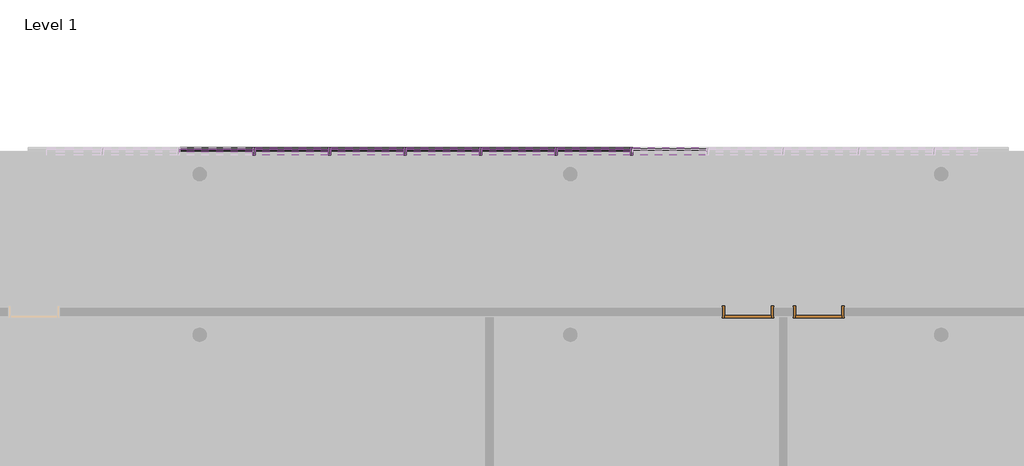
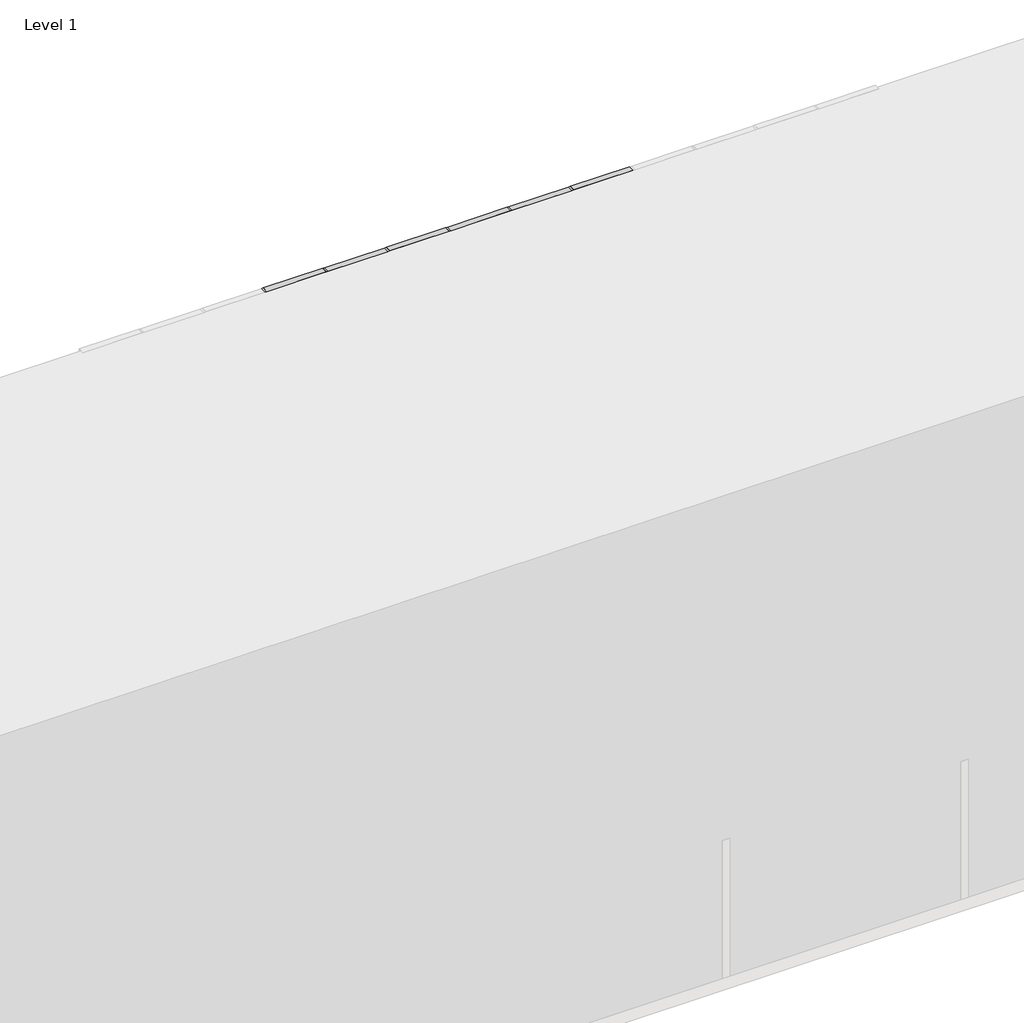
# One storey, part 7 of 27: 90 members, 42 plates, 2 doors.
"""IFC4 building model written with IfcOpenShell, lengths in millimetres."""

from ifc_helpers import new_model, si_unit, origin, place, context, project, spatial, transform, mapped, element, save
from components import door_0915mm_x_2134mm_2aa27b83, door_0915mm_x_2134mm_3fa07aa3, rectangular_mullion_50mm_x_150mm_5f185edf, rectangular_mullion_50mm_x_150mm_e13fe9f0, rectangular_mullion_50mm_x_150mm_bbc1c4ea, rectangular_mullion_50mm_x_150mm_36202a7c, rectangular_mullion_50mm_x_150mm_84717ec5, system_panel_glazed_65478968, system_panel_glazed_4c130a31, system_panel_solid_368a6b70, system_panel_solid_ece33ae8

model = new_model("IFC4")

# Units and contexts
model_context = context("Model", 3, world=origin())
ifc_project = project(units=[si_unit("LENGTHUNIT", "METRE", prefix="MILLI")], contexts=[model_context])

# Site, building, storey
site = spatial("IfcSite", under=ifc_project)
building = spatial("IfcBuilding", under=site)
storey = spatial("IfcBuildingStorey", under=building, Name="Level 1", Elevation=0.0)

# Doors
placement = place(None, origin())
door_0915mm_x_2134mm_shape = door_0915mm_x_2134mm_2aa27b83(model_context)
element("IfcDoor", 1, ObjectType="m-doors-hm-f1-a : 0915mm x 2134mm", at=placement, inside=storey, context=model_context, shape_type="MappedRepresentation", body=[
    mapped(door_0915mm_x_2134mm_shape, transform((45561.1968037, -15479.7006057, 0.0), x_axis=(-1.0, 0.0, 0.0), y_axis=(0.0, -1.0, 0.0), z_axis=(0.0, 0.0, 1.0))),
])
door_0915mm_x_2134mm_2_shape = door_0915mm_x_2134mm_3fa07aa3(model_context)
element("IfcDoor", 2, ObjectType="m-doors-hm-f1-a : 0915mm x 2134mm", at=placement, inside=storey, context=model_context, shape_type="MappedRepresentation", body=[
    mapped(door_0915mm_x_2134mm_2_shape, transform((46961.1968037, -15479.7006057, 0.0), x_axis=(1.0, 0.0, 0.0), y_axis=(0.0, 1.0, 0.0), z_axis=(0.0, 0.0, 1.0))),
])

# Members
rectangular_mullion_50mm_x_150mm_shape = rectangular_mullion_50mm_x_150mm_5f185edf(model_context)
element("IfcMember", 3, ObjectType="Rectangular Mullion : 50mm x 150mm", at=placement, inside=storey, context=model_context, shape_type="MappedRepresentation", body=[
    mapped(rectangular_mullion_50mm_x_150mm_shape, transform((43291.8583565, -12132.3615692, 12400.0), x_axis=(0.0, 0.0, 1.0), y_axis=(0.0, 1.0, 0.0), z_axis=(-1.0, 0.0, 0.0))),
])
element("IfcMember", 4, ObjectType="Rectangular Mullion : 50mm x 150mm", at=placement, inside=storey, context=model_context, shape_type="MappedRepresentation", body=[
    mapped(rectangular_mullion_50mm_x_150mm_shape, transform((41799.3851363, -12132.3615692, 12400.0), x_axis=(0.0, 0.0, 1.0), y_axis=(0.0, 1.0, 0.0), z_axis=(-1.0, 0.0, 0.0))),
])
element("IfcMember", 5, ObjectType="Rectangular Mullion : 50mm x 150mm", at=placement, inside=storey, context=model_context, shape_type="MappedRepresentation", body=[
    mapped(rectangular_mullion_50mm_x_150mm_shape, transform((40306.9119162, -12132.3615692, 12400.0), x_axis=(0.0, 0.0, 1.0), y_axis=(0.0, 1.0, 0.0), z_axis=(-1.0, 0.0, 0.0))),
])
element("IfcMember", 6, ObjectType="Rectangular Mullion : 50mm x 150mm", at=placement, inside=storey, context=model_context, shape_type="MappedRepresentation", body=[
    mapped(rectangular_mullion_50mm_x_150mm_shape, transform((38814.438696, -12132.3615692, 12400.0), x_axis=(0.0, 0.0, 1.0), y_axis=(0.0, 1.0, 0.0), z_axis=(-1.0, 0.0, 0.0))),
])
element("IfcMember", 7, ObjectType="Rectangular Mullion : 50mm x 150mm", at=placement, inside=storey, context=model_context, shape_type="MappedRepresentation", body=[
    mapped(rectangular_mullion_50mm_x_150mm_shape, transform((37321.9654758, -12132.3615692, 12400.0), x_axis=(0.0, 0.0, 1.0), y_axis=(0.0, 1.0, 0.0), z_axis=(-1.0, 0.0, 0.0))),
])
element("IfcMember", 8, ObjectType="Rectangular Mullion : 50mm x 150mm", at=placement, inside=storey, context=model_context, shape_type="MappedRepresentation", body=[
    mapped(rectangular_mullion_50mm_x_150mm_shape, transform((35829.4922557, -12132.3615692, 12400.0), x_axis=(0.0, 0.0, 1.0), y_axis=(0.0, 1.0, 0.0), z_axis=(-1.0, 0.0, 0.0))),
])
element("IfcMember", 9, ObjectType="Rectangular Mullion : 50mm x 150mm", at=placement, inside=storey, context=model_context, shape_type="MappedRepresentation", body=[
    mapped(rectangular_mullion_50mm_x_150mm_shape, transform((43241.8583565, -12132.3615692, 0.0), x_axis=(0.0, 0.0, -1.0), y_axis=(0.0, 1.0, 0.0), z_axis=(1.0, 0.0, 0.0))),
])
element("IfcMember", 10, ObjectType="Rectangular Mullion : 50mm x 150mm", at=placement, inside=storey, context=model_context, shape_type="MappedRepresentation", body=[
    mapped(rectangular_mullion_50mm_x_150mm_shape, transform((41749.3851363, -12132.3615692, 0.0), x_axis=(0.0, 0.0, -1.0), y_axis=(0.0, 1.0, 0.0), z_axis=(1.0, 0.0, 0.0))),
])
element("IfcMember", 11, ObjectType="Rectangular Mullion : 50mm x 150mm", at=placement, inside=storey, context=model_context, shape_type="MappedRepresentation", body=[
    mapped(rectangular_mullion_50mm_x_150mm_shape, transform((40256.9119162, -12132.3615692, 0.0), x_axis=(0.0, 0.0, -1.0), y_axis=(0.0, 1.0, 0.0), z_axis=(1.0, 0.0, 0.0))),
])
element("IfcMember", 12, ObjectType="Rectangular Mullion : 50mm x 150mm", at=placement, inside=storey, context=model_context, shape_type="MappedRepresentation", body=[
    mapped(rectangular_mullion_50mm_x_150mm_shape, transform((38764.438696, -12132.3615692, 0.0), x_axis=(0.0, 0.0, -1.0), y_axis=(0.0, 1.0, 0.0), z_axis=(1.0, 0.0, 0.0))),
])
element("IfcMember", 13, ObjectType="Rectangular Mullion : 50mm x 150mm", at=placement, inside=storey, context=model_context, shape_type="MappedRepresentation", body=[
    mapped(rectangular_mullion_50mm_x_150mm_shape, transform((37271.9654758, -12132.3615692, 0.0), x_axis=(0.0, 0.0, -1.0), y_axis=(0.0, 1.0, 0.0), z_axis=(1.0, 0.0, 0.0))),
])
element("IfcMember", 14, ObjectType="Rectangular Mullion : 50mm x 150mm", at=placement, inside=storey, context=model_context, shape_type="MappedRepresentation", body=[
    mapped(rectangular_mullion_50mm_x_150mm_shape, transform((35779.4922557, -12132.3615692, 0.0), x_axis=(0.0, 0.0, -1.0), y_axis=(0.0, 1.0, 0.0), z_axis=(1.0, 0.0, 0.0))),
])
rectangular_mullion_50mm_x_150mm_2_shape = rectangular_mullion_50mm_x_150mm_e13fe9f0(model_context)
element("IfcMember", 15, ObjectType="Rectangular Mullion : 50mm x 150mm", at=placement, inside=storey, context=model_context, shape_type="MappedRepresentation", body=[
    mapped(rectangular_mullion_50mm_x_150mm_2_shape, transform((43291.8583565, -12132.3615692, 3800.0), x_axis=(0.0, 0.0, 1.0), y_axis=(0.0, 1.0, 0.0), z_axis=(-1.0, 0.0, 0.0))),
])
element("IfcMember", 16, ObjectType="Rectangular Mullion : 50mm x 150mm", at=placement, inside=storey, context=model_context, shape_type="MappedRepresentation", body=[
    mapped(rectangular_mullion_50mm_x_150mm_2_shape, transform((41799.3851363, -12132.3615692, 3800.0), x_axis=(0.0, 0.0, 1.0), y_axis=(0.0, 1.0, 0.0), z_axis=(-1.0, 0.0, 0.0))),
])
element("IfcMember", 17, ObjectType="Rectangular Mullion : 50mm x 150mm", at=placement, inside=storey, context=model_context, shape_type="MappedRepresentation", body=[
    mapped(rectangular_mullion_50mm_x_150mm_2_shape, transform((40306.9119162, -12132.3615692, 3800.0), x_axis=(0.0, 0.0, 1.0), y_axis=(0.0, 1.0, 0.0), z_axis=(-1.0, 0.0, 0.0))),
])
element("IfcMember", 18, ObjectType="Rectangular Mullion : 50mm x 150mm", at=placement, inside=storey, context=model_context, shape_type="MappedRepresentation", body=[
    mapped(rectangular_mullion_50mm_x_150mm_2_shape, transform((38814.438696, -12132.3615692, 3800.0), x_axis=(0.0, 0.0, 1.0), y_axis=(0.0, 1.0, 0.0), z_axis=(-1.0, 0.0, 0.0))),
])
element("IfcMember", 19, ObjectType="Rectangular Mullion : 50mm x 150mm", at=placement, inside=storey, context=model_context, shape_type="MappedRepresentation", body=[
    mapped(rectangular_mullion_50mm_x_150mm_2_shape, transform((37321.9654758, -12132.3615692, 3800.0), x_axis=(0.0, 0.0, 1.0), y_axis=(0.0, 1.0, 0.0), z_axis=(-1.0, 0.0, 0.0))),
])
element("IfcMember", 20, ObjectType="Rectangular Mullion : 50mm x 150mm", at=placement, inside=storey, context=model_context, shape_type="MappedRepresentation", body=[
    mapped(rectangular_mullion_50mm_x_150mm_2_shape, transform((35829.4922557, -12132.3615692, 3800.0), x_axis=(0.0, 0.0, 1.0), y_axis=(0.0, 1.0, 0.0), z_axis=(-1.0, 0.0, 0.0))),
])
element("IfcMember", 21, ObjectType="Rectangular Mullion : 50mm x 150mm", at=placement, inside=storey, context=model_context, shape_type="MappedRepresentation", body=[
    mapped(rectangular_mullion_50mm_x_150mm_2_shape, transform((43291.8583565, -12132.3615692, 7600.0), x_axis=(0.0, 0.0, 1.0), y_axis=(0.0, 1.0, 0.0), z_axis=(-1.0, 0.0, 0.0))),
])
element("IfcMember", 22, ObjectType="Rectangular Mullion : 50mm x 150mm", at=placement, inside=storey, context=model_context, shape_type="MappedRepresentation", body=[
    mapped(rectangular_mullion_50mm_x_150mm_2_shape, transform((41799.3851363, -12132.3615692, 7600.0), x_axis=(0.0, 0.0, 1.0), y_axis=(0.0, 1.0, 0.0), z_axis=(-1.0, 0.0, 0.0))),
])
element("IfcMember", 23, ObjectType="Rectangular Mullion : 50mm x 150mm", at=placement, inside=storey, context=model_context, shape_type="MappedRepresentation", body=[
    mapped(rectangular_mullion_50mm_x_150mm_2_shape, transform((40306.9119162, -12132.3615692, 7600.0), x_axis=(0.0, 0.0, 1.0), y_axis=(0.0, 1.0, 0.0), z_axis=(-1.0, 0.0, 0.0))),
])
element("IfcMember", 24, ObjectType="Rectangular Mullion : 50mm x 150mm", at=placement, inside=storey, context=model_context, shape_type="MappedRepresentation", body=[
    mapped(rectangular_mullion_50mm_x_150mm_2_shape, transform((38814.438696, -12132.3615692, 7600.0), x_axis=(0.0, 0.0, 1.0), y_axis=(0.0, 1.0, 0.0), z_axis=(-1.0, 0.0, 0.0))),
])
element("IfcMember", 25, ObjectType="Rectangular Mullion : 50mm x 150mm", at=placement, inside=storey, context=model_context, shape_type="MappedRepresentation", body=[
    mapped(rectangular_mullion_50mm_x_150mm_2_shape, transform((37321.9654758, -12132.3615692, 7600.0), x_axis=(0.0, 0.0, 1.0), y_axis=(0.0, 1.0, 0.0), z_axis=(-1.0, 0.0, 0.0))),
])
element("IfcMember", 26, ObjectType="Rectangular Mullion : 50mm x 150mm", at=placement, inside=storey, context=model_context, shape_type="MappedRepresentation", body=[
    mapped(rectangular_mullion_50mm_x_150mm_2_shape, transform((35829.4922557, -12132.3615692, 7600.0), x_axis=(0.0, 0.0, 1.0), y_axis=(0.0, 1.0, 0.0), z_axis=(-1.0, 0.0, 0.0))),
])
element("IfcMember", 27, ObjectType="Rectangular Mullion : 50mm x 150mm", at=placement, inside=storey, context=model_context, shape_type="MappedRepresentation", body=[
    mapped(rectangular_mullion_50mm_x_150mm_2_shape, transform((43291.8583565, -12132.3615692, 11400.0), x_axis=(0.0, 0.0, 1.0), y_axis=(0.0, 1.0, 0.0), z_axis=(-1.0, 0.0, 0.0))),
])
element("IfcMember", 28, ObjectType="Rectangular Mullion : 50mm x 150mm", at=placement, inside=storey, context=model_context, shape_type="MappedRepresentation", body=[
    mapped(rectangular_mullion_50mm_x_150mm_2_shape, transform((41799.3851363, -12132.3615692, 11400.0), x_axis=(0.0, 0.0, 1.0), y_axis=(0.0, 1.0, 0.0), z_axis=(-1.0, 0.0, 0.0))),
])
element("IfcMember", 29, ObjectType="Rectangular Mullion : 50mm x 150mm", at=placement, inside=storey, context=model_context, shape_type="MappedRepresentation", body=[
    mapped(rectangular_mullion_50mm_x_150mm_2_shape, transform((40306.9119162, -12132.3615692, 11400.0), x_axis=(0.0, 0.0, 1.0), y_axis=(0.0, 1.0, 0.0), z_axis=(-1.0, 0.0, 0.0))),
])
element("IfcMember", 30, ObjectType="Rectangular Mullion : 50mm x 150mm", at=placement, inside=storey, context=model_context, shape_type="MappedRepresentation", body=[
    mapped(rectangular_mullion_50mm_x_150mm_2_shape, transform((38814.438696, -12132.3615692, 11400.0), x_axis=(0.0, 0.0, 1.0), y_axis=(0.0, 1.0, 0.0), z_axis=(-1.0, 0.0, 0.0))),
])
element("IfcMember", 31, ObjectType="Rectangular Mullion : 50mm x 150mm", at=placement, inside=storey, context=model_context, shape_type="MappedRepresentation", body=[
    mapped(rectangular_mullion_50mm_x_150mm_2_shape, transform((37321.9654758, -12132.3615692, 11400.0), x_axis=(0.0, 0.0, 1.0), y_axis=(0.0, 1.0, 0.0), z_axis=(-1.0, 0.0, 0.0))),
])
element("IfcMember", 32, ObjectType="Rectangular Mullion : 50mm x 150mm", at=placement, inside=storey, context=model_context, shape_type="MappedRepresentation", body=[
    mapped(rectangular_mullion_50mm_x_150mm_2_shape, transform((35829.4922557, -12132.3615692, 11400.0), x_axis=(0.0, 0.0, 1.0), y_axis=(0.0, 1.0, 0.0), z_axis=(-1.0, 0.0, 0.0))),
])
element("IfcMember", 33, ObjectType="Rectangular Mullion : 50mm x 150mm", at=placement, inside=storey, context=model_context, shape_type="MappedRepresentation", body=[
    mapped(rectangular_mullion_50mm_x_150mm_2_shape, transform((43291.8583565, -12132.3615692, 2440.0), x_axis=(0.0, 0.0, 1.0), y_axis=(0.0, 1.0, 0.0), z_axis=(-1.0, 0.0, 0.0))),
])
element("IfcMember", 34, ObjectType="Rectangular Mullion : 50mm x 150mm", at=placement, inside=storey, context=model_context, shape_type="MappedRepresentation", body=[
    mapped(rectangular_mullion_50mm_x_150mm_2_shape, transform((41799.3851363, -12132.3615692, 2440.0), x_axis=(0.0, 0.0, 1.0), y_axis=(0.0, 1.0, 0.0), z_axis=(-1.0, 0.0, 0.0))),
])
element("IfcMember", 35, ObjectType="Rectangular Mullion : 50mm x 150mm", at=placement, inside=storey, context=model_context, shape_type="MappedRepresentation", body=[
    mapped(rectangular_mullion_50mm_x_150mm_2_shape, transform((40306.9119162, -12132.3615692, 2440.0), x_axis=(0.0, 0.0, 1.0), y_axis=(0.0, 1.0, 0.0), z_axis=(-1.0, 0.0, 0.0))),
])
element("IfcMember", 36, ObjectType="Rectangular Mullion : 50mm x 150mm", at=placement, inside=storey, context=model_context, shape_type="MappedRepresentation", body=[
    mapped(rectangular_mullion_50mm_x_150mm_2_shape, transform((38814.438696, -12132.3615692, 2440.0), x_axis=(0.0, 0.0, 1.0), y_axis=(0.0, 1.0, 0.0), z_axis=(-1.0, 0.0, 0.0))),
])
element("IfcMember", 37, ObjectType="Rectangular Mullion : 50mm x 150mm", at=placement, inside=storey, context=model_context, shape_type="MappedRepresentation", body=[
    mapped(rectangular_mullion_50mm_x_150mm_2_shape, transform((37321.9654758, -12132.3615692, 2440.0), x_axis=(0.0, 0.0, 1.0), y_axis=(0.0, 1.0, 0.0), z_axis=(-1.0, 0.0, 0.0))),
])
element("IfcMember", 38, ObjectType="Rectangular Mullion : 50mm x 150mm", at=placement, inside=storey, context=model_context, shape_type="MappedRepresentation", body=[
    mapped(rectangular_mullion_50mm_x_150mm_2_shape, transform((35829.4922557, -12132.3615692, 2440.0), x_axis=(0.0, 0.0, 1.0), y_axis=(0.0, 1.0, 0.0), z_axis=(-1.0, 0.0, 0.0))),
])
element("IfcMember", 39, ObjectType="Rectangular Mullion : 50mm x 150mm", at=placement, inside=storey, context=model_context, shape_type="MappedRepresentation", body=[
    mapped(rectangular_mullion_50mm_x_150mm_2_shape, transform((43291.8583565, -12132.3615692, 6240.0), x_axis=(0.0, 0.0, 1.0), y_axis=(0.0, 1.0, 0.0), z_axis=(-1.0, 0.0, 0.0))),
])
element("IfcMember", 40, ObjectType="Rectangular Mullion : 50mm x 150mm", at=placement, inside=storey, context=model_context, shape_type="MappedRepresentation", body=[
    mapped(rectangular_mullion_50mm_x_150mm_2_shape, transform((41799.3851363, -12132.3615692, 6240.0), x_axis=(0.0, 0.0, 1.0), y_axis=(0.0, 1.0, 0.0), z_axis=(-1.0, 0.0, 0.0))),
])
element("IfcMember", 41, ObjectType="Rectangular Mullion : 50mm x 150mm", at=placement, inside=storey, context=model_context, shape_type="MappedRepresentation", body=[
    mapped(rectangular_mullion_50mm_x_150mm_2_shape, transform((40306.9119162, -12132.3615692, 6240.0), x_axis=(0.0, 0.0, 1.0), y_axis=(0.0, 1.0, 0.0), z_axis=(-1.0, 0.0, 0.0))),
])
element("IfcMember", 42, ObjectType="Rectangular Mullion : 50mm x 150mm", at=placement, inside=storey, context=model_context, shape_type="MappedRepresentation", body=[
    mapped(rectangular_mullion_50mm_x_150mm_2_shape, transform((38814.438696, -12132.3615692, 6240.0), x_axis=(0.0, 0.0, 1.0), y_axis=(0.0, 1.0, 0.0), z_axis=(-1.0, 0.0, 0.0))),
])
element("IfcMember", 43, ObjectType="Rectangular Mullion : 50mm x 150mm", at=placement, inside=storey, context=model_context, shape_type="MappedRepresentation", body=[
    mapped(rectangular_mullion_50mm_x_150mm_2_shape, transform((37321.9654758, -12132.3615692, 6240.0), x_axis=(0.0, 0.0, 1.0), y_axis=(0.0, 1.0, 0.0), z_axis=(-1.0, 0.0, 0.0))),
])
element("IfcMember", 44, ObjectType="Rectangular Mullion : 50mm x 150mm", at=placement, inside=storey, context=model_context, shape_type="MappedRepresentation", body=[
    mapped(rectangular_mullion_50mm_x_150mm_2_shape, transform((35829.4922557, -12132.3615692, 6240.0), x_axis=(0.0, 0.0, 1.0), y_axis=(0.0, 1.0, 0.0), z_axis=(-1.0, 0.0, 0.0))),
])
element("IfcMember", 45, ObjectType="Rectangular Mullion : 50mm x 150mm", at=placement, inside=storey, context=model_context, shape_type="MappedRepresentation", body=[
    mapped(rectangular_mullion_50mm_x_150mm_2_shape, transform((43291.8583565, -12132.3615692, 10040.0), x_axis=(0.0, 0.0, 1.0), y_axis=(0.0, 1.0, 0.0), z_axis=(-1.0, 0.0, 0.0))),
])
element("IfcMember", 46, ObjectType="Rectangular Mullion : 50mm x 150mm", at=placement, inside=storey, context=model_context, shape_type="MappedRepresentation", body=[
    mapped(rectangular_mullion_50mm_x_150mm_2_shape, transform((41799.3851363, -12132.3615692, 10040.0), x_axis=(0.0, 0.0, 1.0), y_axis=(0.0, 1.0, 0.0), z_axis=(-1.0, 0.0, 0.0))),
])
element("IfcMember", 47, ObjectType="Rectangular Mullion : 50mm x 150mm", at=placement, inside=storey, context=model_context, shape_type="MappedRepresentation", body=[
    mapped(rectangular_mullion_50mm_x_150mm_2_shape, transform((40306.9119162, -12132.3615692, 10040.0), x_axis=(0.0, 0.0, 1.0), y_axis=(0.0, 1.0, 0.0), z_axis=(-1.0, 0.0, 0.0))),
])
element("IfcMember", 48, ObjectType="Rectangular Mullion : 50mm x 150mm", at=placement, inside=storey, context=model_context, shape_type="MappedRepresentation", body=[
    mapped(rectangular_mullion_50mm_x_150mm_2_shape, transform((38814.438696, -12132.3615692, 10040.0), x_axis=(0.0, 0.0, 1.0), y_axis=(0.0, 1.0, 0.0), z_axis=(-1.0, 0.0, 0.0))),
])
element("IfcMember", 49, ObjectType="Rectangular Mullion : 50mm x 150mm", at=placement, inside=storey, context=model_context, shape_type="MappedRepresentation", body=[
    mapped(rectangular_mullion_50mm_x_150mm_2_shape, transform((37321.9654758, -12132.3615692, 10040.0), x_axis=(0.0, 0.0, 1.0), y_axis=(0.0, 1.0, 0.0), z_axis=(-1.0, 0.0, 0.0))),
])
element("IfcMember", 50, ObjectType="Rectangular Mullion : 50mm x 150mm", at=placement, inside=storey, context=model_context, shape_type="MappedRepresentation", body=[
    mapped(rectangular_mullion_50mm_x_150mm_2_shape, transform((35829.4922557, -12132.3615692, 10040.0), x_axis=(0.0, 0.0, 1.0), y_axis=(0.0, 1.0, 0.0), z_axis=(-1.0, 0.0, 0.0))),
])
rectangular_mullion_50mm_x_150mm_3_shape = rectangular_mullion_50mm_x_150mm_bbc1c4ea(model_context)
element("IfcMember", 51, ObjectType="Rectangular Mullion : 50mm x 150mm", at=placement, inside=storey, context=model_context, shape_type="MappedRepresentation", body=[
    mapped(rectangular_mullion_50mm_x_150mm_3_shape, transform((43266.8583565, -12132.3615692, 11400.0), x_axis=(-1.0, 0.0, 0.0), y_axis=(0.0, 1.0, 0.0), z_axis=(0.0, 0.0, -1.0))),
])
element("IfcMember", 52, ObjectType="Rectangular Mullion : 50mm x 150mm", at=placement, inside=storey, context=model_context, shape_type="MappedRepresentation", body=[
    mapped(rectangular_mullion_50mm_x_150mm_3_shape, transform((41774.3851363, -12132.3615692, 11400.0), x_axis=(-1.0, 0.0, 0.0), y_axis=(0.0, 1.0, 0.0), z_axis=(0.0, 0.0, -1.0))),
])
element("IfcMember", 53, ObjectType="Rectangular Mullion : 50mm x 150mm", at=placement, inside=storey, context=model_context, shape_type="MappedRepresentation", body=[
    mapped(rectangular_mullion_50mm_x_150mm_3_shape, transform((40281.9119162, -12132.3615692, 11400.0), x_axis=(-1.0, 0.0, 0.0), y_axis=(0.0, 1.0, 0.0), z_axis=(0.0, 0.0, -1.0))),
])
element("IfcMember", 54, ObjectType="Rectangular Mullion : 50mm x 150mm", at=placement, inside=storey, context=model_context, shape_type="MappedRepresentation", body=[
    mapped(rectangular_mullion_50mm_x_150mm_3_shape, transform((38789.438696, -12132.3615692, 11400.0), x_axis=(-1.0, 0.0, 0.0), y_axis=(0.0, 1.0, 0.0), z_axis=(0.0, 0.0, -1.0))),
])
element("IfcMember", 55, ObjectType="Rectangular Mullion : 50mm x 150mm", at=placement, inside=storey, context=model_context, shape_type="MappedRepresentation", body=[
    mapped(rectangular_mullion_50mm_x_150mm_3_shape, transform((37296.9654758, -12132.3615692, 11400.0), x_axis=(-1.0, 0.0, 0.0), y_axis=(0.0, 1.0, 0.0), z_axis=(0.0, 0.0, -1.0))),
])
element("IfcMember", 56, ObjectType="Rectangular Mullion : 50mm x 150mm", at=placement, inside=storey, context=model_context, shape_type="MappedRepresentation", body=[
    mapped(rectangular_mullion_50mm_x_150mm_3_shape, transform((35804.4922557, -12132.3615692, 11400.0), x_axis=(-1.0, 0.0, 0.0), y_axis=(0.0, 1.0, 0.0), z_axis=(0.0, 0.0, -1.0))),
])
rectangular_mullion_50mm_x_150mm_4_shape = rectangular_mullion_50mm_x_150mm_36202a7c(model_context)
element("IfcMember", 57, ObjectType="Rectangular Mullion : 50mm x 150mm", at=placement, inside=storey, context=model_context, shape_type="MappedRepresentation", body=[
    mapped(rectangular_mullion_50mm_x_150mm_4_shape, transform((43266.8583565, -12132.3615692, 0.0), x_axis=(-1.0, 0.0, 0.0), y_axis=(0.0, 1.0, 0.0), z_axis=(0.0, 0.0, -1.0))),
])
element("IfcMember", 58, ObjectType="Rectangular Mullion : 50mm x 150mm", at=placement, inside=storey, context=model_context, shape_type="MappedRepresentation", body=[
    mapped(rectangular_mullion_50mm_x_150mm_4_shape, transform((41774.3851363, -12132.3615692, 0.0), x_axis=(-1.0, 0.0, 0.0), y_axis=(0.0, 1.0, 0.0), z_axis=(0.0, 0.0, -1.0))),
])
element("IfcMember", 59, ObjectType="Rectangular Mullion : 50mm x 150mm", at=placement, inside=storey, context=model_context, shape_type="MappedRepresentation", body=[
    mapped(rectangular_mullion_50mm_x_150mm_4_shape, transform((40281.9119162, -12132.3615692, 0.0), x_axis=(-1.0, 0.0, 0.0), y_axis=(0.0, 1.0, 0.0), z_axis=(0.0, 0.0, -1.0))),
])
element("IfcMember", 60, ObjectType="Rectangular Mullion : 50mm x 150mm", at=placement, inside=storey, context=model_context, shape_type="MappedRepresentation", body=[
    mapped(rectangular_mullion_50mm_x_150mm_4_shape, transform((38789.438696, -12132.3615692, 0.0), x_axis=(-1.0, 0.0, 0.0), y_axis=(0.0, 1.0, 0.0), z_axis=(0.0, 0.0, -1.0))),
])
element("IfcMember", 61, ObjectType="Rectangular Mullion : 50mm x 150mm", at=placement, inside=storey, context=model_context, shape_type="MappedRepresentation", body=[
    mapped(rectangular_mullion_50mm_x_150mm_4_shape, transform((37296.9654758, -12132.3615692, 0.0), x_axis=(-1.0, 0.0, 0.0), y_axis=(0.0, 1.0, 0.0), z_axis=(0.0, 0.0, -1.0))),
])
element("IfcMember", 62, ObjectType="Rectangular Mullion : 50mm x 150mm", at=placement, inside=storey, context=model_context, shape_type="MappedRepresentation", body=[
    mapped(rectangular_mullion_50mm_x_150mm_4_shape, transform((35804.4922557, -12132.3615692, 0.0), x_axis=(-1.0, 0.0, 0.0), y_axis=(0.0, 1.0, 0.0), z_axis=(0.0, 0.0, -1.0))),
])
rectangular_mullion_50mm_x_150mm_5_shape = rectangular_mullion_50mm_x_150mm_84717ec5(model_context)
element("IfcMember", 63, ObjectType="Rectangular Mullion : 50mm x 150mm", at=placement, inside=storey, context=model_context, shape_type="MappedRepresentation", body=[
    mapped(rectangular_mullion_50mm_x_150mm_5_shape, transform((43266.8583565, -12132.3615692, 2440.0), x_axis=(-1.0, 0.0, 0.0), y_axis=(0.0, 1.0, 0.0), z_axis=(0.0, 0.0, -1.0))),
])
element("IfcMember", 64, ObjectType="Rectangular Mullion : 50mm x 150mm", at=placement, inside=storey, context=model_context, shape_type="MappedRepresentation", body=[
    mapped(rectangular_mullion_50mm_x_150mm_5_shape, transform((41774.3851363, -12132.3615692, 2440.0), x_axis=(-1.0, 0.0, 0.0), y_axis=(0.0, 1.0, 0.0), z_axis=(0.0, 0.0, -1.0))),
])
element("IfcMember", 65, ObjectType="Rectangular Mullion : 50mm x 150mm", at=placement, inside=storey, context=model_context, shape_type="MappedRepresentation", body=[
    mapped(rectangular_mullion_50mm_x_150mm_5_shape, transform((40281.9119162, -12132.3615692, 2440.0), x_axis=(-1.0, 0.0, 0.0), y_axis=(0.0, 1.0, 0.0), z_axis=(0.0, 0.0, -1.0))),
])
element("IfcMember", 66, ObjectType="Rectangular Mullion : 50mm x 150mm", at=placement, inside=storey, context=model_context, shape_type="MappedRepresentation", body=[
    mapped(rectangular_mullion_50mm_x_150mm_5_shape, transform((38789.438696, -12132.3615692, 2440.0), x_axis=(-1.0, 0.0, 0.0), y_axis=(0.0, 1.0, 0.0), z_axis=(0.0, 0.0, -1.0))),
])
element("IfcMember", 67, ObjectType="Rectangular Mullion : 50mm x 150mm", at=placement, inside=storey, context=model_context, shape_type="MappedRepresentation", body=[
    mapped(rectangular_mullion_50mm_x_150mm_5_shape, transform((37296.9654758, -12132.3615692, 2440.0), x_axis=(-1.0, 0.0, 0.0), y_axis=(0.0, 1.0, 0.0), z_axis=(0.0, 0.0, -1.0))),
])
element("IfcMember", 68, ObjectType="Rectangular Mullion : 50mm x 150mm", at=placement, inside=storey, context=model_context, shape_type="MappedRepresentation", body=[
    mapped(rectangular_mullion_50mm_x_150mm_5_shape, transform((35804.4922557, -12132.3615692, 2440.0), x_axis=(-1.0, 0.0, 0.0), y_axis=(0.0, 1.0, 0.0), z_axis=(0.0, 0.0, -1.0))),
])
element("IfcMember", 69, ObjectType="Rectangular Mullion : 50mm x 150mm", at=placement, inside=storey, context=model_context, shape_type="MappedRepresentation", body=[
    mapped(rectangular_mullion_50mm_x_150mm_5_shape, transform((43266.8583565, -12132.3615692, 6240.0), x_axis=(-1.0, 0.0, 0.0), y_axis=(0.0, 1.0, 0.0), z_axis=(0.0, 0.0, -1.0))),
])
element("IfcMember", 70, ObjectType="Rectangular Mullion : 50mm x 150mm", at=placement, inside=storey, context=model_context, shape_type="MappedRepresentation", body=[
    mapped(rectangular_mullion_50mm_x_150mm_5_shape, transform((41774.3851363, -12132.3615692, 6240.0), x_axis=(-1.0, 0.0, 0.0), y_axis=(0.0, 1.0, 0.0), z_axis=(0.0, 0.0, -1.0))),
])
element("IfcMember", 71, ObjectType="Rectangular Mullion : 50mm x 150mm", at=placement, inside=storey, context=model_context, shape_type="MappedRepresentation", body=[
    mapped(rectangular_mullion_50mm_x_150mm_5_shape, transform((40281.9119162, -12132.3615692, 6240.0), x_axis=(-1.0, 0.0, 0.0), y_axis=(0.0, 1.0, 0.0), z_axis=(0.0, 0.0, -1.0))),
])
element("IfcMember", 72, ObjectType="Rectangular Mullion : 50mm x 150mm", at=placement, inside=storey, context=model_context, shape_type="MappedRepresentation", body=[
    mapped(rectangular_mullion_50mm_x_150mm_5_shape, transform((38789.438696, -12132.3615692, 6240.0), x_axis=(-1.0, 0.0, 0.0), y_axis=(0.0, 1.0, 0.0), z_axis=(0.0, 0.0, -1.0))),
])
element("IfcMember", 73, ObjectType="Rectangular Mullion : 50mm x 150mm", at=placement, inside=storey, context=model_context, shape_type="MappedRepresentation", body=[
    mapped(rectangular_mullion_50mm_x_150mm_5_shape, transform((37296.9654758, -12132.3615692, 6240.0), x_axis=(-1.0, 0.0, 0.0), y_axis=(0.0, 1.0, 0.0), z_axis=(0.0, 0.0, -1.0))),
])
element("IfcMember", 74, ObjectType="Rectangular Mullion : 50mm x 150mm", at=placement, inside=storey, context=model_context, shape_type="MappedRepresentation", body=[
    mapped(rectangular_mullion_50mm_x_150mm_5_shape, transform((35804.4922557, -12132.3615692, 6240.0), x_axis=(-1.0, 0.0, 0.0), y_axis=(0.0, 1.0, 0.0), z_axis=(0.0, 0.0, -1.0))),
])
element("IfcMember", 75, ObjectType="Rectangular Mullion : 50mm x 150mm", at=placement, inside=storey, context=model_context, shape_type="MappedRepresentation", body=[
    mapped(rectangular_mullion_50mm_x_150mm_5_shape, transform((43266.8583565, -12132.3615692, 10040.0), x_axis=(-1.0, 0.0, 0.0), y_axis=(0.0, 1.0, 0.0), z_axis=(0.0, 0.0, -1.0))),
])
element("IfcMember", 76, ObjectType="Rectangular Mullion : 50mm x 150mm", at=placement, inside=storey, context=model_context, shape_type="MappedRepresentation", body=[
    mapped(rectangular_mullion_50mm_x_150mm_5_shape, transform((41774.3851363, -12132.3615692, 10040.0), x_axis=(-1.0, 0.0, 0.0), y_axis=(0.0, 1.0, 0.0), z_axis=(0.0, 0.0, -1.0))),
])
element("IfcMember", 77, ObjectType="Rectangular Mullion : 50mm x 150mm", at=placement, inside=storey, context=model_context, shape_type="MappedRepresentation", body=[
    mapped(rectangular_mullion_50mm_x_150mm_5_shape, transform((40281.9119162, -12132.3615692, 10040.0), x_axis=(-1.0, 0.0, 0.0), y_axis=(0.0, 1.0, 0.0), z_axis=(0.0, 0.0, -1.0))),
])
element("IfcMember", 78, ObjectType="Rectangular Mullion : 50mm x 150mm", at=placement, inside=storey, context=model_context, shape_type="MappedRepresentation", body=[
    mapped(rectangular_mullion_50mm_x_150mm_5_shape, transform((38789.438696, -12132.3615692, 10040.0), x_axis=(-1.0, 0.0, 0.0), y_axis=(0.0, 1.0, 0.0), z_axis=(0.0, 0.0, -1.0))),
])
element("IfcMember", 79, ObjectType="Rectangular Mullion : 50mm x 150mm", at=placement, inside=storey, context=model_context, shape_type="MappedRepresentation", body=[
    mapped(rectangular_mullion_50mm_x_150mm_5_shape, transform((37296.9654758, -12132.3615692, 10040.0), x_axis=(-1.0, 0.0, 0.0), y_axis=(0.0, 1.0, 0.0), z_axis=(0.0, 0.0, -1.0))),
])
element("IfcMember", 80, ObjectType="Rectangular Mullion : 50mm x 150mm", at=placement, inside=storey, context=model_context, shape_type="MappedRepresentation", body=[
    mapped(rectangular_mullion_50mm_x_150mm_5_shape, transform((35804.4922557, -12132.3615692, 10040.0), x_axis=(-1.0, 0.0, 0.0), y_axis=(0.0, 1.0, 0.0), z_axis=(0.0, 0.0, -1.0))),
])
element("IfcMember", 81, ObjectType="Rectangular Mullion : 50mm x 150mm", at=placement, inside=storey, context=model_context, shape_type="MappedRepresentation", body=[
    mapped(rectangular_mullion_50mm_x_150mm_4_shape, transform((43266.8583565, -12132.3615692, 3800.0), x_axis=(-1.0, 0.0, 0.0), y_axis=(0.0, 1.0, 0.0), z_axis=(0.0, 0.0, -1.0))),
])
element("IfcMember", 82, ObjectType="Rectangular Mullion : 50mm x 150mm", at=placement, inside=storey, context=model_context, shape_type="MappedRepresentation", body=[
    mapped(rectangular_mullion_50mm_x_150mm_4_shape, transform((41774.3851363, -12132.3615692, 3800.0), x_axis=(-1.0, 0.0, 0.0), y_axis=(0.0, 1.0, 0.0), z_axis=(0.0, 0.0, -1.0))),
])
element("IfcMember", 83, ObjectType="Rectangular Mullion : 50mm x 150mm", at=placement, inside=storey, context=model_context, shape_type="MappedRepresentation", body=[
    mapped(rectangular_mullion_50mm_x_150mm_4_shape, transform((40281.9119162, -12132.3615692, 3800.0), x_axis=(-1.0, 0.0, 0.0), y_axis=(0.0, 1.0, 0.0), z_axis=(0.0, 0.0, -1.0))),
])
element("IfcMember", 84, ObjectType="Rectangular Mullion : 50mm x 150mm", at=placement, inside=storey, context=model_context, shape_type="MappedRepresentation", body=[
    mapped(rectangular_mullion_50mm_x_150mm_4_shape, transform((38789.438696, -12132.3615692, 3800.0), x_axis=(-1.0, 0.0, 0.0), y_axis=(0.0, 1.0, 0.0), z_axis=(0.0, 0.0, -1.0))),
])
element("IfcMember", 85, ObjectType="Rectangular Mullion : 50mm x 150mm", at=placement, inside=storey, context=model_context, shape_type="MappedRepresentation", body=[
    mapped(rectangular_mullion_50mm_x_150mm_4_shape, transform((37296.9654758, -12132.3615692, 3800.0), x_axis=(-1.0, 0.0, 0.0), y_axis=(0.0, 1.0, 0.0), z_axis=(0.0, 0.0, -1.0))),
])
element("IfcMember", 86, ObjectType="Rectangular Mullion : 50mm x 150mm", at=placement, inside=storey, context=model_context, shape_type="MappedRepresentation", body=[
    mapped(rectangular_mullion_50mm_x_150mm_4_shape, transform((35804.4922557, -12132.3615692, 3800.0), x_axis=(-1.0, 0.0, 0.0), y_axis=(0.0, 1.0, 0.0), z_axis=(0.0, 0.0, -1.0))),
])
element("IfcMember", 87, ObjectType="Rectangular Mullion : 50mm x 150mm", at=placement, inside=storey, context=model_context, shape_type="MappedRepresentation", body=[
    mapped(rectangular_mullion_50mm_x_150mm_4_shape, transform((43266.8583565, -12132.3615692, 7600.0), x_axis=(-1.0, 0.0, 0.0), y_axis=(0.0, 1.0, 0.0), z_axis=(0.0, 0.0, -1.0))),
])
element("IfcMember", 88, ObjectType="Rectangular Mullion : 50mm x 150mm", at=placement, inside=storey, context=model_context, shape_type="MappedRepresentation", body=[
    mapped(rectangular_mullion_50mm_x_150mm_4_shape, transform((41774.3851363, -12132.3615692, 7600.0), x_axis=(-1.0, 0.0, 0.0), y_axis=(0.0, 1.0, 0.0), z_axis=(0.0, 0.0, -1.0))),
])
element("IfcMember", 89, ObjectType="Rectangular Mullion : 50mm x 150mm", at=placement, inside=storey, context=model_context, shape_type="MappedRepresentation", body=[
    mapped(rectangular_mullion_50mm_x_150mm_4_shape, transform((40281.9119162, -12132.3615692, 7600.0), x_axis=(-1.0, 0.0, 0.0), y_axis=(0.0, 1.0, 0.0), z_axis=(0.0, 0.0, -1.0))),
])
element("IfcMember", 90, ObjectType="Rectangular Mullion : 50mm x 150mm", at=placement, inside=storey, context=model_context, shape_type="MappedRepresentation", body=[
    mapped(rectangular_mullion_50mm_x_150mm_4_shape, transform((38789.438696, -12132.3615692, 7600.0), x_axis=(-1.0, 0.0, 0.0), y_axis=(0.0, 1.0, 0.0), z_axis=(0.0, 0.0, -1.0))),
])
element("IfcMember", 91, ObjectType="Rectangular Mullion : 50mm x 150mm", at=placement, inside=storey, context=model_context, shape_type="MappedRepresentation", body=[
    mapped(rectangular_mullion_50mm_x_150mm_4_shape, transform((37296.9654758, -12132.3615692, 7600.0), x_axis=(-1.0, 0.0, 0.0), y_axis=(0.0, 1.0, 0.0), z_axis=(0.0, 0.0, -1.0))),
])
element("IfcMember", 92, ObjectType="Rectangular Mullion : 50mm x 150mm", at=placement, inside=storey, context=model_context, shape_type="MappedRepresentation", body=[
    mapped(rectangular_mullion_50mm_x_150mm_4_shape, transform((35804.4922557, -12132.3615692, 7600.0), x_axis=(-1.0, 0.0, 0.0), y_axis=(0.0, 1.0, 0.0), z_axis=(0.0, 0.0, -1.0))),
])

# Plates
system_panel_glazed_shape = system_panel_glazed_65478968(model_context)
element("IfcPlate", 93, ObjectType="System Panel : Glazed", at=placement, inside=storey, context=model_context, shape_type="MappedRepresentation", body=[
    mapped(system_panel_glazed_shape, transform((44013.0949665, -12132.3615692, 50.0), x_axis=(-1.0, 0.0, 0.0), y_axis=(0.0, -1.0, 0.0), z_axis=(0.0, 0.0, 1.0))),
])
element("IfcPlate", 94, ObjectType="System Panel : Glazed", at=placement, inside=storey, context=model_context, shape_type="MappedRepresentation", body=[
    mapped(system_panel_glazed_shape, transform((42520.6217464, -12132.3615692, 50.0), x_axis=(-1.0, 0.0, 0.0), y_axis=(0.0, -1.0, 0.0), z_axis=(0.0, 0.0, 1.0))),
])
element("IfcPlate", 95, ObjectType="System Panel : Glazed", at=placement, inside=storey, context=model_context, shape_type="MappedRepresentation", body=[
    mapped(system_panel_glazed_shape, transform((41028.1485262, -12132.3615692, 50.0), x_axis=(-1.0, 0.0, 0.0), y_axis=(0.0, -1.0, 0.0), z_axis=(0.0, 0.0, 1.0))),
])
element("IfcPlate", 96, ObjectType="System Panel : Glazed", at=placement, inside=storey, context=model_context, shape_type="MappedRepresentation", body=[
    mapped(system_panel_glazed_shape, transform((39535.6753061, -12132.3615692, 50.0), x_axis=(-1.0, 0.0, 0.0), y_axis=(0.0, -1.0, 0.0), z_axis=(0.0, 0.0, 1.0))),
])
element("IfcPlate", 97, ObjectType="System Panel : Glazed", at=placement, inside=storey, context=model_context, shape_type="MappedRepresentation", body=[
    mapped(system_panel_glazed_shape, transform((38043.2020859, -12132.3615692, 50.0), x_axis=(-1.0, 0.0, 0.0), y_axis=(0.0, -1.0, 0.0), z_axis=(0.0, 0.0, 1.0))),
])
element("IfcPlate", 98, ObjectType="System Panel : Glazed", at=placement, inside=storey, context=model_context, shape_type="MappedRepresentation", body=[
    mapped(system_panel_glazed_shape, transform((36550.7288658, -12132.3615692, 50.0), x_axis=(-1.0, 0.0, 0.0), y_axis=(0.0, -1.0, 0.0), z_axis=(0.0, 0.0, 1.0))),
])
system_panel_glazed_2_shape = system_panel_glazed_4c130a31(model_context)
element("IfcPlate", 99, ObjectType="System Panel : Glazed", at=placement, inside=storey, context=model_context, shape_type="MappedRepresentation", body=[
    mapped(system_panel_glazed_2_shape, transform((44013.0949665, -12132.3615692, 3825.0), x_axis=(-1.0, 0.0, 0.0), y_axis=(0.0, -1.0, 0.0), z_axis=(0.0, 0.0, 1.0))),
])
element("IfcPlate", 100, ObjectType="System Panel : Glazed", at=placement, inside=storey, context=model_context, shape_type="MappedRepresentation", body=[
    mapped(system_panel_glazed_2_shape, transform((42520.6217464, -12132.3615692, 3825.0), x_axis=(-1.0, 0.0, 0.0), y_axis=(0.0, -1.0, 0.0), z_axis=(0.0, 0.0, 1.0))),
])
element("IfcPlate", 101, ObjectType="System Panel : Glazed", at=placement, inside=storey, context=model_context, shape_type="MappedRepresentation", body=[
    mapped(system_panel_glazed_2_shape, transform((41028.1485262, -12132.3615692, 3825.0), x_axis=(-1.0, 0.0, 0.0), y_axis=(0.0, -1.0, 0.0), z_axis=(0.0, 0.0, 1.0))),
])
element("IfcPlate", 102, ObjectType="System Panel : Glazed", at=placement, inside=storey, context=model_context, shape_type="MappedRepresentation", body=[
    mapped(system_panel_glazed_2_shape, transform((39535.6753061, -12132.3615692, 3825.0), x_axis=(-1.0, 0.0, 0.0), y_axis=(0.0, -1.0, 0.0), z_axis=(0.0, 0.0, 1.0))),
])
element("IfcPlate", 103, ObjectType="System Panel : Glazed", at=placement, inside=storey, context=model_context, shape_type="MappedRepresentation", body=[
    mapped(system_panel_glazed_2_shape, transform((38043.2020859, -12132.3615692, 3825.0), x_axis=(-1.0, 0.0, 0.0), y_axis=(0.0, -1.0, 0.0), z_axis=(0.0, 0.0, 1.0))),
])
element("IfcPlate", 104, ObjectType="System Panel : Glazed", at=placement, inside=storey, context=model_context, shape_type="MappedRepresentation", body=[
    mapped(system_panel_glazed_2_shape, transform((36550.7288658, -12132.3615692, 3825.0), x_axis=(-1.0, 0.0, 0.0), y_axis=(0.0, -1.0, 0.0), z_axis=(0.0, 0.0, 1.0))),
])
element("IfcPlate", 105, ObjectType="System Panel : Glazed", at=placement, inside=storey, context=model_context, shape_type="MappedRepresentation", body=[
    mapped(system_panel_glazed_2_shape, transform((42520.6217464, -12132.3615692, 7625.0), x_axis=(-1.0, 0.0, 0.0), y_axis=(0.0, -1.0, 0.0), z_axis=(0.0, 0.0, 1.0))),
])
element("IfcPlate", 106, ObjectType="System Panel : Glazed", at=placement, inside=storey, context=model_context, shape_type="MappedRepresentation", body=[
    mapped(system_panel_glazed_2_shape, transform((41028.1485262, -12132.3615692, 7625.0), x_axis=(-1.0, 0.0, 0.0), y_axis=(0.0, -1.0, 0.0), z_axis=(0.0, 0.0, 1.0))),
])
element("IfcPlate", 107, ObjectType="System Panel : Glazed", at=placement, inside=storey, context=model_context, shape_type="MappedRepresentation", body=[
    mapped(system_panel_glazed_2_shape, transform((39535.6753061, -12132.3615692, 7625.0), x_axis=(-1.0, 0.0, 0.0), y_axis=(0.0, -1.0, 0.0), z_axis=(0.0, 0.0, 1.0))),
])
element("IfcPlate", 108, ObjectType="System Panel : Glazed", at=placement, inside=storey, context=model_context, shape_type="MappedRepresentation", body=[
    mapped(system_panel_glazed_2_shape, transform((38043.2020859, -12132.3615692, 7625.0), x_axis=(-1.0, 0.0, 0.0), y_axis=(0.0, -1.0, 0.0), z_axis=(0.0, 0.0, 1.0))),
])
element("IfcPlate", 109, ObjectType="System Panel : Glazed", at=placement, inside=storey, context=model_context, shape_type="MappedRepresentation", body=[
    mapped(system_panel_glazed_2_shape, transform((36550.7288658, -12132.3615692, 7625.0), x_axis=(-1.0, 0.0, 0.0), y_axis=(0.0, -1.0, 0.0), z_axis=(0.0, 0.0, 1.0))),
])
element("IfcPlate", 110, ObjectType="System Panel : Glazed", at=placement, inside=storey, context=model_context, shape_type="MappedRepresentation", body=[
    mapped(system_panel_glazed_2_shape, transform((35058.2556456, -12132.3615692, 7625.0), x_axis=(-1.0, 0.0, 0.0), y_axis=(0.0, -1.0, 0.0), z_axis=(0.0, 0.0, 1.0))),
])
system_panel_solid_shape = system_panel_solid_368a6b70(model_context)
element("IfcPlate", 111, ObjectType="System Panel : Solid", at=placement, inside=storey, context=model_context, shape_type="MappedRepresentation", body=[
    mapped(system_panel_solid_shape, transform((42520.6217464, -12132.3615692, 11425.0), x_axis=(-1.0, 0.0, 0.0), y_axis=(0.0, -1.0, 0.0), z_axis=(0.0, 0.0, 1.0))),
])
element("IfcPlate", 112, ObjectType="System Panel : Solid", at=placement, inside=storey, context=model_context, shape_type="MappedRepresentation", body=[
    mapped(system_panel_solid_shape, transform((41028.1485262, -12132.3615692, 11425.0), x_axis=(-1.0, 0.0, 0.0), y_axis=(0.0, -1.0, 0.0), z_axis=(0.0, 0.0, 1.0))),
])
element("IfcPlate", 113, ObjectType="System Panel : Solid", at=placement, inside=storey, context=model_context, shape_type="MappedRepresentation", body=[
    mapped(system_panel_solid_shape, transform((39535.6753061, -12132.3615692, 11425.0), x_axis=(-1.0, 0.0, 0.0), y_axis=(0.0, -1.0, 0.0), z_axis=(0.0, 0.0, 1.0))),
])
element("IfcPlate", 114, ObjectType="System Panel : Solid", at=placement, inside=storey, context=model_context, shape_type="MappedRepresentation", body=[
    mapped(system_panel_solid_shape, transform((38043.2020859, -12132.3615692, 11425.0), x_axis=(-1.0, 0.0, 0.0), y_axis=(0.0, -1.0, 0.0), z_axis=(0.0, 0.0, 1.0))),
])
element("IfcPlate", 115, ObjectType="System Panel : Solid", at=placement, inside=storey, context=model_context, shape_type="MappedRepresentation", body=[
    mapped(system_panel_solid_shape, transform((36550.7288658, -12132.3615692, 11425.0), x_axis=(-1.0, 0.0, 0.0), y_axis=(0.0, -1.0, 0.0), z_axis=(0.0, 0.0, 1.0))),
])
element("IfcPlate", 116, ObjectType="System Panel : Solid", at=placement, inside=storey, context=model_context, shape_type="MappedRepresentation", body=[
    mapped(system_panel_solid_shape, transform((35058.2556456, -12132.3615692, 11425.0), x_axis=(-1.0, 0.0, 0.0), y_axis=(0.0, -1.0, 0.0), z_axis=(0.0, 0.0, 1.0))),
])
system_panel_solid_2_shape = system_panel_solid_ece33ae8(model_context)
element("IfcPlate", 117, ObjectType="System Panel : Solid", at=placement, inside=storey, context=model_context, shape_type="MappedRepresentation", body=[
    mapped(system_panel_solid_2_shape, transform((42520.6217464, -12132.3615692, 2465.0), x_axis=(-1.0, 0.0, 0.0), y_axis=(0.0, -1.0, 0.0), z_axis=(0.0, 0.0, 1.0))),
])
element("IfcPlate", 118, ObjectType="System Panel : Solid", at=placement, inside=storey, context=model_context, shape_type="MappedRepresentation", body=[
    mapped(system_panel_solid_2_shape, transform((41028.1485262, -12132.3615692, 2465.0), x_axis=(-1.0, 0.0, 0.0), y_axis=(0.0, -1.0, 0.0), z_axis=(0.0, 0.0, 1.0))),
])
element("IfcPlate", 119, ObjectType="System Panel : Solid", at=placement, inside=storey, context=model_context, shape_type="MappedRepresentation", body=[
    mapped(system_panel_solid_2_shape, transform((39535.6753061, -12132.3615692, 2465.0), x_axis=(-1.0, 0.0, 0.0), y_axis=(0.0, -1.0, 0.0), z_axis=(0.0, 0.0, 1.0))),
])
element("IfcPlate", 120, ObjectType="System Panel : Solid", at=placement, inside=storey, context=model_context, shape_type="MappedRepresentation", body=[
    mapped(system_panel_solid_2_shape, transform((38043.2020859, -12132.3615692, 2465.0), x_axis=(-1.0, 0.0, 0.0), y_axis=(0.0, -1.0, 0.0), z_axis=(0.0, 0.0, 1.0))),
])
element("IfcPlate", 121, ObjectType="System Panel : Solid", at=placement, inside=storey, context=model_context, shape_type="MappedRepresentation", body=[
    mapped(system_panel_solid_2_shape, transform((36550.7288658, -12132.3615692, 2465.0), x_axis=(-1.0, 0.0, 0.0), y_axis=(0.0, -1.0, 0.0), z_axis=(0.0, 0.0, 1.0))),
])
element("IfcPlate", 122, ObjectType="System Panel : Solid", at=placement, inside=storey, context=model_context, shape_type="MappedRepresentation", body=[
    mapped(system_panel_solid_2_shape, transform((35058.2556456, -12132.3615692, 2465.0), x_axis=(-1.0, 0.0, 0.0), y_axis=(0.0, -1.0, 0.0), z_axis=(0.0, 0.0, 1.0))),
])
element("IfcPlate", 123, ObjectType="System Panel : Solid", at=placement, inside=storey, context=model_context, shape_type="MappedRepresentation", body=[
    mapped(system_panel_solid_2_shape, transform((42520.6217464, -12132.3615692, 6265.0), x_axis=(-1.0, 0.0, 0.0), y_axis=(0.0, -1.0, 0.0), z_axis=(0.0, 0.0, 1.0))),
])
element("IfcPlate", 124, ObjectType="System Panel : Solid", at=placement, inside=storey, context=model_context, shape_type="MappedRepresentation", body=[
    mapped(system_panel_solid_2_shape, transform((41028.1485262, -12132.3615692, 6265.0), x_axis=(-1.0, 0.0, 0.0), y_axis=(0.0, -1.0, 0.0), z_axis=(0.0, 0.0, 1.0))),
])
element("IfcPlate", 125, ObjectType="System Panel : Solid", at=placement, inside=storey, context=model_context, shape_type="MappedRepresentation", body=[
    mapped(system_panel_solid_2_shape, transform((39535.6753061, -12132.3615692, 6265.0), x_axis=(-1.0, 0.0, 0.0), y_axis=(0.0, -1.0, 0.0), z_axis=(0.0, 0.0, 1.0))),
])
element("IfcPlate", 126, ObjectType="System Panel : Solid", at=placement, inside=storey, context=model_context, shape_type="MappedRepresentation", body=[
    mapped(system_panel_solid_2_shape, transform((38043.2020859, -12132.3615692, 6265.0), x_axis=(-1.0, 0.0, 0.0), y_axis=(0.0, -1.0, 0.0), z_axis=(0.0, 0.0, 1.0))),
])
element("IfcPlate", 127, ObjectType="System Panel : Solid", at=placement, inside=storey, context=model_context, shape_type="MappedRepresentation", body=[
    mapped(system_panel_solid_2_shape, transform((36550.7288658, -12132.3615692, 6265.0), x_axis=(-1.0, 0.0, 0.0), y_axis=(0.0, -1.0, 0.0), z_axis=(0.0, 0.0, 1.0))),
])
element("IfcPlate", 128, ObjectType="System Panel : Solid", at=placement, inside=storey, context=model_context, shape_type="MappedRepresentation", body=[
    mapped(system_panel_solid_2_shape, transform((35058.2556456, -12132.3615692, 6265.0), x_axis=(-1.0, 0.0, 0.0), y_axis=(0.0, -1.0, 0.0), z_axis=(0.0, 0.0, 1.0))),
])
element("IfcPlate", 129, ObjectType="System Panel : Solid", at=placement, inside=storey, context=model_context, shape_type="MappedRepresentation", body=[
    mapped(system_panel_solid_2_shape, transform((42520.6217464, -12132.3615692, 10065.0), x_axis=(-1.0, 0.0, 0.0), y_axis=(0.0, -1.0, 0.0), z_axis=(0.0, 0.0, 1.0))),
])
element("IfcPlate", 130, ObjectType="System Panel : Solid", at=placement, inside=storey, context=model_context, shape_type="MappedRepresentation", body=[
    mapped(system_panel_solid_2_shape, transform((41028.1485262, -12132.3615692, 10065.0), x_axis=(-1.0, 0.0, 0.0), y_axis=(0.0, -1.0, 0.0), z_axis=(0.0, 0.0, 1.0))),
])
element("IfcPlate", 131, ObjectType="System Panel : Solid", at=placement, inside=storey, context=model_context, shape_type="MappedRepresentation", body=[
    mapped(system_panel_solid_2_shape, transform((39535.6753061, -12132.3615692, 10065.0), x_axis=(-1.0, 0.0, 0.0), y_axis=(0.0, -1.0, 0.0), z_axis=(0.0, 0.0, 1.0))),
])
element("IfcPlate", 132, ObjectType="System Panel : Solid", at=placement, inside=storey, context=model_context, shape_type="MappedRepresentation", body=[
    mapped(system_panel_solid_2_shape, transform((38043.2020859, -12132.3615692, 10065.0), x_axis=(-1.0, 0.0, 0.0), y_axis=(0.0, -1.0, 0.0), z_axis=(0.0, 0.0, 1.0))),
])
element("IfcPlate", 133, ObjectType="System Panel : Solid", at=placement, inside=storey, context=model_context, shape_type="MappedRepresentation", body=[
    mapped(system_panel_solid_2_shape, transform((36550.7288658, -12132.3615692, 10065.0), x_axis=(-1.0, 0.0, 0.0), y_axis=(0.0, -1.0, 0.0), z_axis=(0.0, 0.0, 1.0))),
])
element("IfcPlate", 134, ObjectType="System Panel : Solid", at=placement, inside=storey, context=model_context, shape_type="MappedRepresentation", body=[
    mapped(system_panel_solid_2_shape, transform((35058.2556456, -12132.3615692, 10065.0), x_axis=(-1.0, 0.0, 0.0), y_axis=(0.0, -1.0, 0.0), z_axis=(0.0, 0.0, 1.0))),
])

save(model, "model.ifc")
